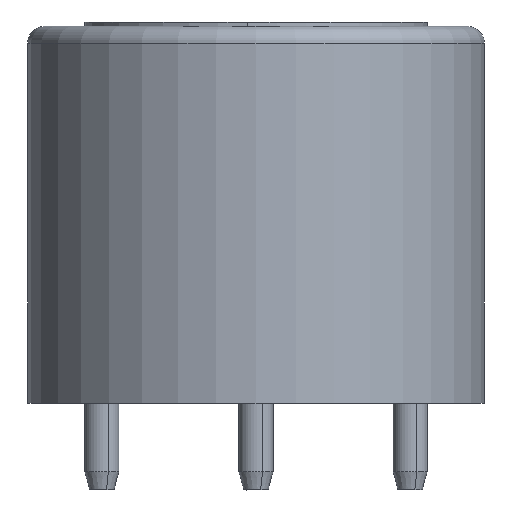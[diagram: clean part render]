
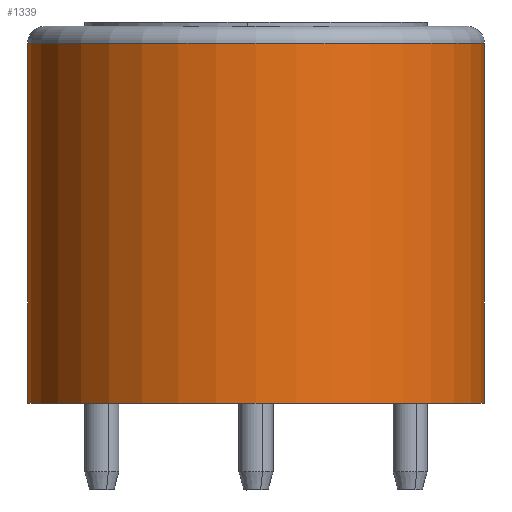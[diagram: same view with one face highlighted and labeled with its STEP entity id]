
A CAD part, front view. The second image highlights one B-rep face of the part: STEP entity #1339.
In plain terms, the highlighted cylindrical face has radius 10 mm (diameter 20 mm), a partial arc.
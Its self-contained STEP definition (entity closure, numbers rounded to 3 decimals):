
#62 = LINE ( 'NONE', #2551, #580 ) ;
#74 = EDGE_CURVE ( 'NONE', #2597, #1658, #2675, .T. ) ;
#97 = ORIENTED_EDGE ( 'NONE', *, *, #928, .F. ) ;
#160 = DIRECTION ( 'NONE',  ( 0., 0., 1. ) ) ;
#453 = DIRECTION ( 'NONE',  ( 0., 0., 1. ) ) ;
#482 = EDGE_LOOP ( 'NONE', ( #97, #2420, #1563, #2693 ) ) ;
#503 = CARTESIAN_POINT ( 'NONE',  ( 10., 0., -15.75 ) ) ;
#506 = CARTESIAN_POINT ( 'NONE',  ( -10., 0., -15.75 ) ) ;
#557 = DIRECTION ( 'NONE',  ( 0., 0., 1. ) ) ;
#570 = CARTESIAN_POINT ( 'NONE',  ( 0., 0., 0. ) ) ;
#580 = VECTOR ( 'NONE', #453, 1000. ) ;
#604 = VERTEX_POINT ( 'NONE', #2374 ) ;
#643 = DIRECTION ( 'NONE',  ( 1., 0., 0. ) ) ;
#756 = DIRECTION ( 'NONE',  ( 0., 0., 1. ) ) ;
#850 = VECTOR ( 'NONE', #756, 1000. ) ;
#928 = EDGE_CURVE ( 'NONE', #2223, #604, #62, .T. ) ;
#1007 = CARTESIAN_POINT ( 'NONE',  ( 10., 0., -16.5 ) ) ;
#1209 = FACE_OUTER_BOUND ( 'NONE', #482, .T. ) ;
#1339 = ADVANCED_FACE ( 'NONE', ( #1209 ), #1788, .T. ) ;
#1376 = EDGE_CURVE ( 'NONE', #2223, #2597, #2451, .T. ) ;
#1397 = DIRECTION ( 'NONE',  ( 1., 0., 0. ) ) ;
#1423 = CARTESIAN_POINT ( 'NONE',  ( 0., 0., -16.5 ) ) ;
#1467 = EDGE_CURVE ( 'NONE', #604, #1658, #2367, .T. ) ;
#1563 = ORIENTED_EDGE ( 'NONE', *, *, #74, .T. ) ;
#1572 = CARTESIAN_POINT ( 'NONE',  ( 0., 0., -15.75 ) ) ;
#1586 = DIRECTION ( 'NONE',  ( 1., 0., 0. ) ) ;
#1658 = VERTEX_POINT ( 'NONE', #1708 ) ;
#1708 = CARTESIAN_POINT ( 'NONE',  ( 10., 0., 0. ) ) ;
#1788 = CYLINDRICAL_SURFACE ( 'NONE', #2012, 10. ) ;
#2012 = AXIS2_PLACEMENT_3D ( 'NONE', #1423, #557, #1397 ) ;
#2223 = VERTEX_POINT ( 'NONE', #506 ) ;
#2319 = AXIS2_PLACEMENT_3D ( 'NONE', #1572, #2635, #1586 ) ;
#2367 = CIRCLE ( 'NONE', #2711, 10. ) ;
#2374 = CARTESIAN_POINT ( 'NONE',  ( -10., 0., 0. ) ) ;
#2420 = ORIENTED_EDGE ( 'NONE', *, *, #1376, .T. ) ;
#2451 = CIRCLE ( 'NONE', #2319, 10. ) ;
#2551 = CARTESIAN_POINT ( 'NONE',  ( -10., 0., -16.5 ) ) ;
#2597 = VERTEX_POINT ( 'NONE', #503 ) ;
#2635 = DIRECTION ( 'NONE',  ( 0., 0., 1. ) ) ;
#2675 = LINE ( 'NONE', #1007, #850 ) ;
#2693 = ORIENTED_EDGE ( 'NONE', *, *, #1467, .F. ) ;
#2711 = AXIS2_PLACEMENT_3D ( 'NONE', #570, #160, #643 ) ;
